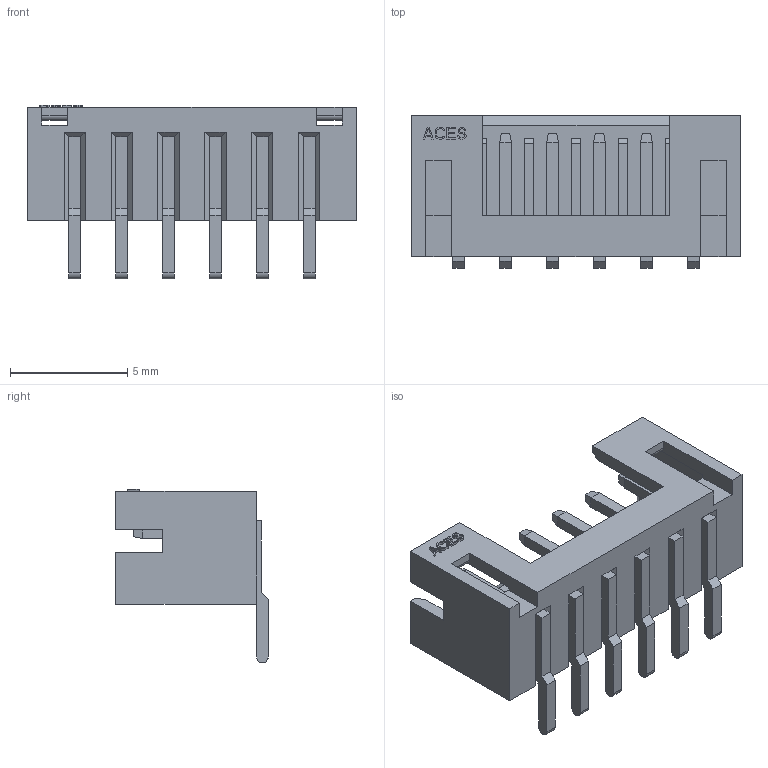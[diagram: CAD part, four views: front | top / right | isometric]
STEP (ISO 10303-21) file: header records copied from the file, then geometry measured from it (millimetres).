
FILE_DESCRIPTION((''),'2;1');
FILE_NAME('6','2010-01-05T',('snow'),(''),'PRO/ENGINEER BY PARAMETRIC TECHNOLOGY CORPORATION, 2007450','PRO/ENGINEER BY PARAMETRIC TECHNOLOGY CORPORATION, 2007450','');
FILE_SCHEMA(('CONFIG_CONTROL_DESIGN'));
Length unit declared in the file: millimetre
Products named in the file (1): 6
Bounding box: 14 x 6.5 x 7.4 mm (x, y, z)
Volume: 171.9 mm3; surface area: 561.4 mm2
Topology: 1 solids, 19 shells, 451 faces, 1142 edges, 736 vertices
Faces by surface type: plane 437, cylinder 14
Entity records: 13206 total; most frequent: CARTESIAN_POINT 2329, ORIENTED_EDGE 2284, DIRECTION 2072, EDGE_CURVE 1142, VECTOR 1114, LINE 1114, VERTEX_POINT 736, AXIS2_PLACEMENT_3D 479
